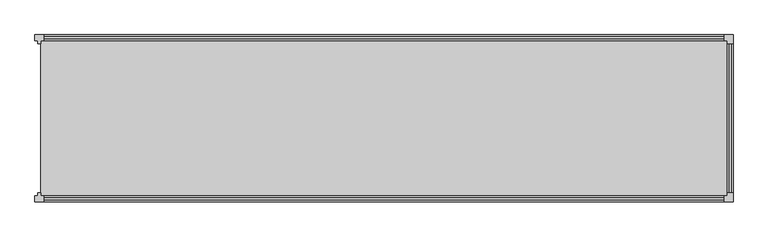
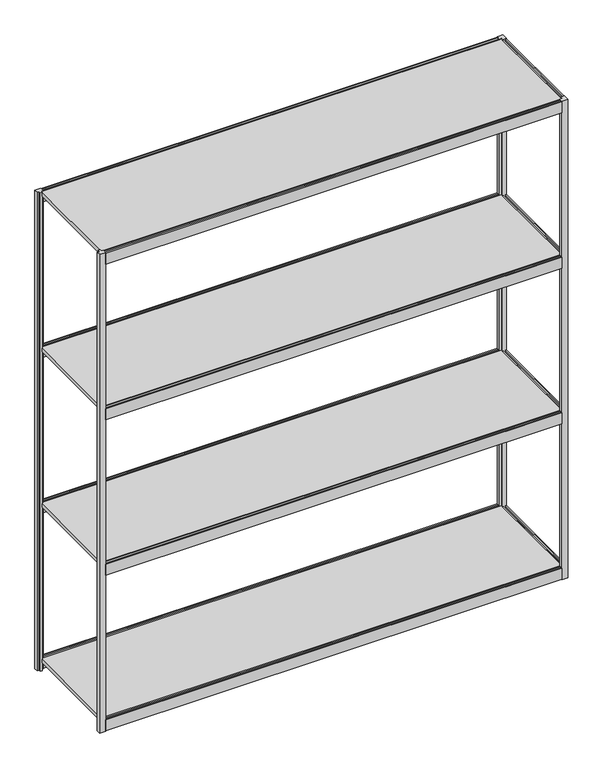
"""IFC4 building model written with IfcOpenShell, lengths in millimetres: furniture geometry, Loft_Wall-Shift-Shelving-Adder : SHIFT-6A-FH."""

from ifc_helpers import new_model, si_unit, frame, origin, origin_with_axes, place, context, project, spatial, polyline, outline, extrude, source, transform, mapped, element, save


def furniture_124d8ea0(model_context):
    return source(origin(), model_context, "Body", "SweptSolid", [
        extrude(outline(polyline([(1330.8965, 1219.2), (1330.8965, 1215.1868), (1323.2384, 1215.1868), (1323.2384, 1207.9732), (1330.8965, 1207.9732), (1330.8965, 1203.96), (1285.6845, 1203.96), (1285.6845, 1207.9732), (1293.3426, 1207.9732), (1293.3426, 1215.1868), (1285.6845, 1215.1868), (1285.6845, 1219.2), (1330.8965, 1219.2)])), frame((0.0, -196.215, 0.0), z_axis=(0.0, 1.0, 0.0), x_axis=(0.0, 0.0, 1.0)), (0.0, 0.0, 1.0), 392.43),
        extrude(outline(polyline([(-203.835, 1285.6845), (-207.8482, 1285.6845), (-207.8482, 1293.3426), (-215.0618, 1293.3426), (-215.0618, 1285.6845), (-219.075, 1285.6845), (-219.075, 1330.8965), (-215.0618, 1330.8965), (-215.0618, 1323.2384), (-207.8482, 1323.2384), (-207.8482, 1330.8965), (-203.835, 1330.8965), (-203.835, 1285.6845)])), frame((-586.74, 0.0, 0.0), z_axis=(1.0, 0.0, 0.0), x_axis=(0.0, 1.0, 0.0)), (0.0, 0.0, 1.0), 1783.08),
        extrude(outline(polyline([(203.835, 1285.6845), (203.835, 1330.8965), (207.8482, 1330.8965), (207.8482, 1323.2384), (215.0618, 1323.2384), (215.0618, 1330.8965), (219.075, 1330.8965), (219.075, 1285.6845), (215.0618, 1285.6845), (215.0618, 1293.3426), (207.8482, 1293.3426), (207.8482, 1285.6845), (203.835, 1285.6845)])), frame((-586.74, 0.0, 0.0), z_axis=(1.0, 0.0, 0.0), x_axis=(0.0, 1.0, 0.0)), (0.0, 0.0, 1.0), 1783.08),
        extrude(outline(polyline([(1203.96, 203.835), (1203.96, -203.835), (-594.36, -203.835), (-594.36, 203.835), (1203.96, 203.835)])), frame((0.0, 0.0, 1315.4631509), z_axis=(0.0, 0.0, 1.0), x_axis=(1.0, 0.0, 0.0)), (0.0, 0.0, 1.0), 15.4333491),
        extrude(outline(polyline([(689.1655, 1219.2), (689.1655, 1215.1868), (681.5074, 1215.1868), (681.5074, 1207.9732), (689.1655, 1207.9732), (689.1655, 1203.96), (643.9535, 1203.96), (643.9535, 1207.9732), (651.6116, 1207.9732), (651.6116, 1215.1868), (643.9535, 1215.1868), (643.9535, 1219.2), (689.1655, 1219.2)])), frame((0.0, -196.215, 0.0), z_axis=(0.0, 1.0, 0.0), x_axis=(0.0, 0.0, 1.0)), (0.0, 0.0, 1.0), 392.43),
        extrude(outline(polyline([(-203.835, 643.9535), (-207.8482, 643.9535), (-207.8482, 651.6116), (-215.0618, 651.6116), (-215.0618, 643.9535), (-219.075, 643.9535), (-219.075, 689.1655), (-215.0618, 689.1655), (-215.0618, 681.5074), (-207.8482, 681.5074), (-207.8482, 689.1655), (-203.835, 689.1655), (-203.835, 643.9535)])), frame((-586.74, 0.0, 0.0), z_axis=(1.0, 0.0, 0.0), x_axis=(0.0, 1.0, 0.0)), (0.0, 0.0, 1.0), 1783.08),
        extrude(outline(polyline([(203.835, 643.9535), (203.835, 689.1655), (207.8482, 689.1655), (207.8482, 681.5074), (215.0618, 681.5074), (215.0618, 689.1655), (219.075, 689.1655), (219.075, 643.9535), (215.0618, 643.9535), (215.0618, 651.6116), (207.8482, 651.6116), (207.8482, 643.9535), (203.835, 643.9535)])), frame((-586.74, 0.0, 0.0), z_axis=(1.0, 0.0, 0.0), x_axis=(0.0, 1.0, 0.0)), (0.0, 0.0, 1.0), 1783.08),
        extrude(outline(polyline([(1203.96, 203.835), (1203.96, -203.835), (-594.36, -203.835), (-594.36, 203.835), (1203.96, 203.835)])), frame((0.0, 0.0, 673.7321509), z_axis=(0.0, 0.0, 1.0), x_axis=(1.0, 0.0, 0.0)), (0.0, 0.0, 1.0), 15.4333491),
        extrude(outline(polyline([(1972.6275, 1219.2), (1972.6275, 1215.1868), (1964.9694, 1215.1868), (1964.9694, 1207.9732), (1972.6275, 1207.9732), (1972.6275, 1203.96), (1927.4155, 1203.96), (1927.4155, 1207.9732), (1935.0736, 1207.9732), (1935.0736, 1215.1868), (1927.4155, 1215.1868), (1927.4155, 1219.2), (1972.6275, 1219.2)])), frame((0.0, -196.215, 0.0), z_axis=(0.0, 1.0, 0.0), x_axis=(0.0, 0.0, 1.0)), (0.0, 0.0, 1.0), 392.43),
        extrude(outline(polyline([(-203.835, 1927.4155), (-207.8482, 1927.4155), (-207.8482, 1935.0736), (-215.0618, 1935.0736), (-215.0618, 1927.4155), (-219.075, 1927.4155), (-219.075, 1972.6275), (-215.0618, 1972.6275), (-215.0618, 1964.9694), (-207.8482, 1964.9694), (-207.8482, 1972.6275), (-203.835, 1972.6275), (-203.835, 1927.4155)])), frame((-586.74, 0.0, 0.0), z_axis=(1.0, 0.0, 0.0), x_axis=(0.0, 1.0, 0.0)), (0.0, 0.0, 1.0), 1783.08),
        extrude(outline(polyline([(203.835, 1927.4155), (203.835, 1972.6275), (207.8482, 1972.6275), (207.8482, 1964.9694), (215.0618, 1964.9694), (215.0618, 1972.6275), (219.075, 1972.6275), (219.075, 1927.4155), (215.0618, 1927.4155), (215.0618, 1935.0736), (207.8482, 1935.0736), (207.8482, 1927.4155), (203.835, 1927.4155)])), frame((-586.74, 0.0, 0.0), z_axis=(1.0, 0.0, 0.0), x_axis=(0.0, 1.0, 0.0)), (0.0, 0.0, 1.0), 1783.08),
        extrude(outline(polyline([(1203.96, 203.835), (1203.96, -203.835), (-594.36, -203.835), (-594.36, 203.835), (1203.96, 203.835)])), frame((0.0, 0.0, 1957.1941509), z_axis=(0.0, 0.0, 1.0), x_axis=(1.0, 0.0, 0.0)), (0.0, 0.0, 1.0), 15.4333491),
        extrude(outline(polyline([(47.4345, 1219.2), (47.4345, 1215.1868), (39.7764, 1215.1868), (39.7764, 1207.9732), (47.4345, 1207.9732), (47.4345, 1203.96), (2.2225, 1203.96), (2.2225, 1207.9732), (9.8806, 1207.9732), (9.8806, 1215.1868), (2.2225, 1215.1868), (2.2225, 1219.2), (47.4345, 1219.2)])), frame((0.0, -196.215, 0.0), z_axis=(0.0, 1.0, 0.0), x_axis=(0.0, 0.0, 1.0)), (0.0, 0.0, 1.0), 392.43),
        extrude(outline(polyline([(-203.835, 2.2225), (-207.8482, 2.2225), (-207.8482, 9.8806), (-215.0618, 9.8806), (-215.0618, 2.2225), (-219.075, 2.2225), (-219.075, 47.4345), (-215.0618, 47.4345), (-215.0618, 39.7764), (-207.8482, 39.7764), (-207.8482, 47.4345), (-203.835, 47.4345), (-203.835, 2.2225)])), frame((-586.74, 0.0, 0.0), z_axis=(1.0, 0.0, 0.0), x_axis=(0.0, 1.0, 0.0)), (0.0, 0.0, 1.0), 1783.08),
        extrude(outline(polyline([(203.835, 2.2225), (203.835, 47.4345), (207.8482, 47.4345), (207.8482, 39.7764), (215.0618, 39.7764), (215.0618, 47.4345), (219.075, 47.4345), (219.075, 2.2225), (215.0618, 2.2225), (215.0618, 9.8806), (207.8482, 9.8806), (207.8482, 2.2225), (203.835, 2.2225)])), frame((-586.74, 0.0, 0.0), z_axis=(1.0, 0.0, 0.0), x_axis=(0.0, 1.0, 0.0)), (0.0, 0.0, 1.0), 1783.08),
        extrude(outline(polyline([(1203.96, 203.835), (1203.96, -203.835), (-594.36, -203.835), (-594.36, 203.835), (1203.96, 203.835)])), frame((0.0, 0.0, 32.0011509), z_axis=(0.0, 0.0, 1.0), x_axis=(1.0, 0.0, 0.0)), (0.0, 0.0, 1.0), 15.4333491),
        extrude(outline(polyline([(-586.74, -203.835), (-586.74, -219.075), (-609.6, -219.075), (-609.6, -203.835), (-601.6625, -203.835), (-601.6625, -196.215), (-594.36, -196.215), (-594.36, -203.835), (-586.74, -203.835)])), origin_with_axes(), (0.0, 0.0, 1.0), 1974.85),
        extrude(outline(polyline([(1196.34, -203.835), (1203.96, -203.835), (1203.96, -196.215), (1219.2, -196.215), (1219.2, -219.075), (1196.34, -219.075), (1196.34, -203.835)])), origin_with_axes(), (0.0, 0.0, 1.0), 1974.85),
        extrude(outline(polyline([(-586.74, 203.835), (-594.36, 203.835), (-594.36, 196.215), (-601.6625, 196.215), (-601.6625, 203.835), (-609.6, 203.835), (-609.6, 219.075), (-586.74, 219.075), (-586.74, 203.835)])), origin_with_axes(), (0.0, 0.0, 1.0), 1974.85),
        extrude(outline(polyline([(1196.34, 203.835), (1196.34, 219.075), (1219.2, 219.075), (1219.2, 196.215), (1203.96, 196.215), (1203.96, 203.835), (1196.34, 203.835)])), origin_with_axes(), (0.0, 0.0, 1.0), 1974.85),
    ])


if __name__ == "__main__":
    model = new_model("IFC4")
    model_context = context("Model", 3, world=origin())
    ifc_project = project(units=[si_unit("LENGTHUNIT", "METRE", prefix="MILLI")], contexts=[model_context])
    site = spatial("IfcSite", under=ifc_project)
    building = spatial("IfcBuilding", under=site)
    placement = place(None, origin())
    furniture_shape = furniture_124d8ea0(model_context)
    element("IfcFurniture", 1, ObjectType="Loft_Wall-Shift-Shelving-Adder : SHIFT-6A-FH", at=placement, inside=building, context=model_context, shape_type="MappedRepresentation", body=[
        mapped(furniture_shape, transform((0.0, 0.0, 0.0), x_axis=(1.0, 0.0, 0.0), y_axis=(0.0, 1.0, 0.0), z_axis=(0.0, 0.0, 1.0))),
    ])
    save(model, "model.ifc")
